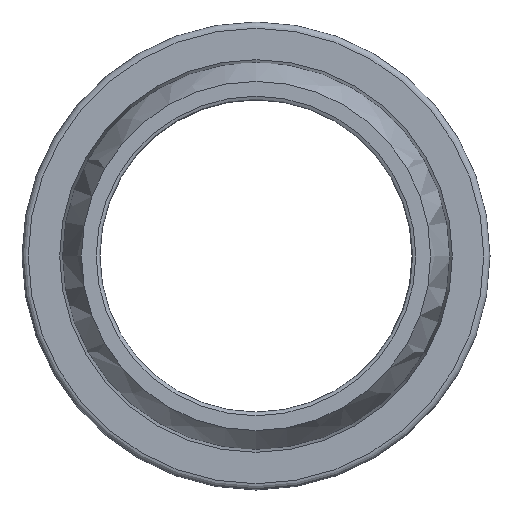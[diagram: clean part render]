
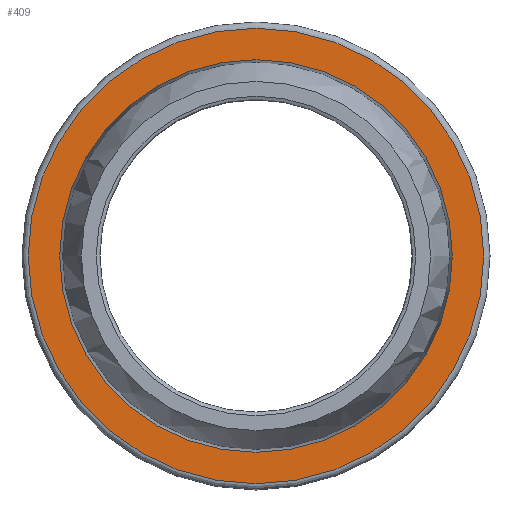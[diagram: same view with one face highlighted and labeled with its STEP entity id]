
A CAD part, left-side view. The second image highlights one B-rep face of the part: STEP entity #409.
In plain terms, the highlighted planar face has unit normal (-1, 0, 0).
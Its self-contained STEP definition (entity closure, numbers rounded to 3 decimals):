
#31=PLANE('',#466);
#74=FACE_BOUND('',#173,.T.);
#116=FACE_OUTER_BOUND('',#172,.T.);
#172=EDGE_LOOP('',(#364));
#173=EDGE_LOOP('',(#365));
#207=CIRCLE('',#465,31.461);
#208=CIRCLE('',#467,36.5);
#245=VERTEX_POINT('',#956);
#246=VERTEX_POINT('',#959);
#287=EDGE_CURVE('',#245,#245,#207,.T.);
#288=EDGE_CURVE('',#246,#246,#208,.T.);
#364=ORIENTED_EDGE('',*,*,#288,.F.);
#365=ORIENTED_EDGE('',*,*,#287,.T.);
#409=ADVANCED_FACE('',(#116,#74),#31,.T.);
#465=AXIS2_PLACEMENT_3D('',#957,#575,#576);
#466=AXIS2_PLACEMENT_3D('',#958,#577,#578);
#467=AXIS2_PLACEMENT_3D('',#960,#579,#580);
#575=DIRECTION('center_axis',(1.,0.,0.));
#576=DIRECTION('ref_axis',(0.,0.,-1.));
#577=DIRECTION('center_axis',(-1.,0.,0.));
#578=DIRECTION('ref_axis',(0.,0.,1.));
#579=DIRECTION('center_axis',(1.,0.,0.));
#580=DIRECTION('ref_axis',(0.,0.,-1.));
#956=CARTESIAN_POINT('',(-14.,31.461,0.));
#957=CARTESIAN_POINT('Origin',(-14.,0.,0.));
#958=CARTESIAN_POINT('Origin',(-14.,36.5,0.));
#959=CARTESIAN_POINT('',(-14.,36.5,0.));
#960=CARTESIAN_POINT('Origin',(-14.,0.,0.));
